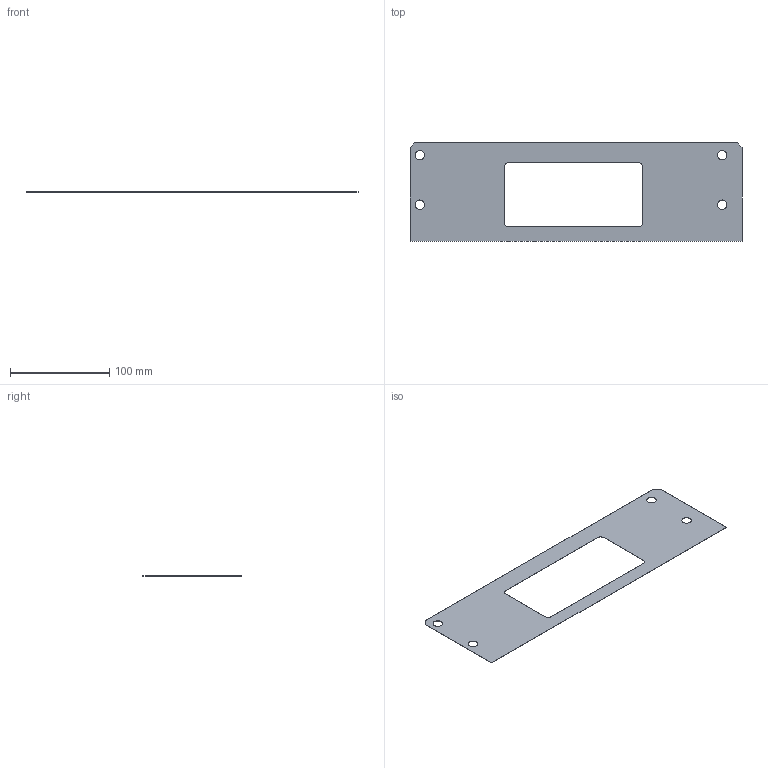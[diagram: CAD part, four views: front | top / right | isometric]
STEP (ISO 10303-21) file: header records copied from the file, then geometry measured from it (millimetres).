
FILE_DESCRIPTION(/* description */ ('PROTECTION MYLAR CHARPENTE 2','CAx-IF Rec.Pracs.---Representation and Presentation of Product Manufacturing Information (PMI)---4.0---2014-10-13'),/* implementation_level */ '2;1');
FILE_NAME(/* name */ 'vv110322-A.stp',/* time_stamp */ '2025-09-26T17:23:22+02:00',/* author */ ('mmartin'),/* organization */ (''),/* preprocessor_version */ 'ST-DEVELOPER v20',/* originating_system */ 'Autodesk Inventor 2025',/* authorisation */ '');
FILE_SCHEMA (('AP242_MANAGED_MODEL_BASED_3D_ENGINEERING_MIM_LF { 1 0 10303 442 1 1 4 }'));
Length unit declared in the file: millimetre
Products named in the file (1): VICTOR.V.11.03.22
Bounding box: 335 x 99.46 x 0.25 mm (x, y, z)
Volume: 5983.2 mm3; surface area: 48211.5 mm2
Topology: 1 solids, 1 shells, 20 faces, 54 edges, 36 vertices
Faces by surface type: plane 12, cylinder 8
Full cylindrical faces by diameter (mm): 9.5 x4
Entity records: 848 total; most frequent: CARTESIAN_POINT 152, DIRECTION 136, ORIENTED_EDGE 108, EDGE_CURVE 54, AXIS2_PLACEMENT_3D 49, LINE 38, VECTOR 38, VERTEX_POINT 36
